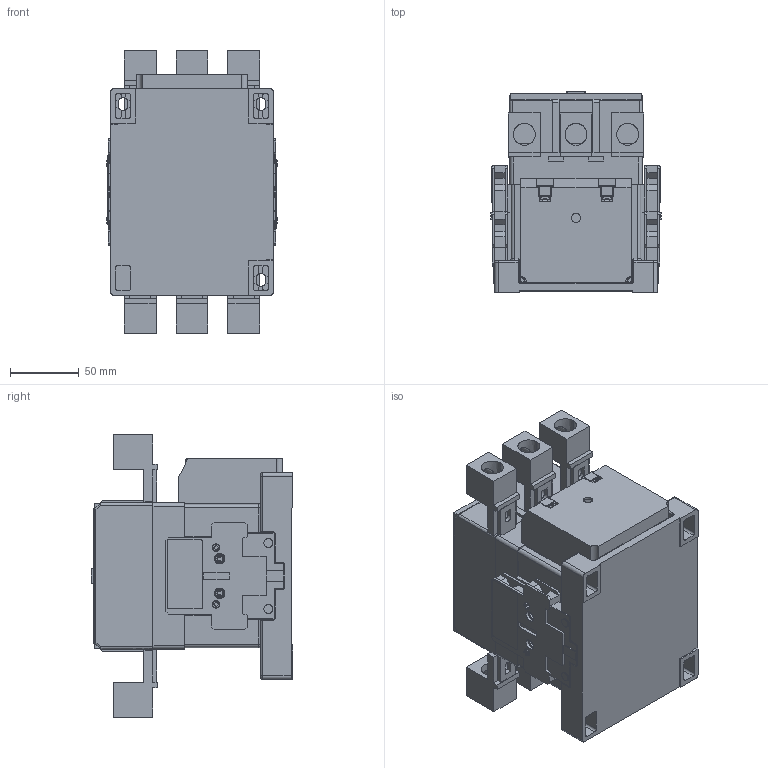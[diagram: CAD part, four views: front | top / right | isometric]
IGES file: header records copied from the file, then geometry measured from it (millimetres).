
Start section: SolidWorks IGES file using analytic representation for surfaces
Global section: file name: Q:\GROUPS\BR_SC_JGS_WA_TECNICO\ENG\Usuarios\Rodrigob\conversão\contatores\Produto\CWM112_E-CWM150_E+LW1-S300\CWM112_E-CWM150_E+LW1-S300.IGS; native system: SolidWorks 2012; preprocessor: SolidWorks 2012; author: rodrigob; date: 130405.100337; units: millimetre
Bounding box: 124.2 x 146 x 204.8 mm (x, y, z)
Surface area: 271544.5 mm2 (no closed solid volume)
Topology: 0 solids, 0 shells, 3246 faces, 30394 edges, 30360 vertices
Faces by surface type: bspline 2267, revolution 979
